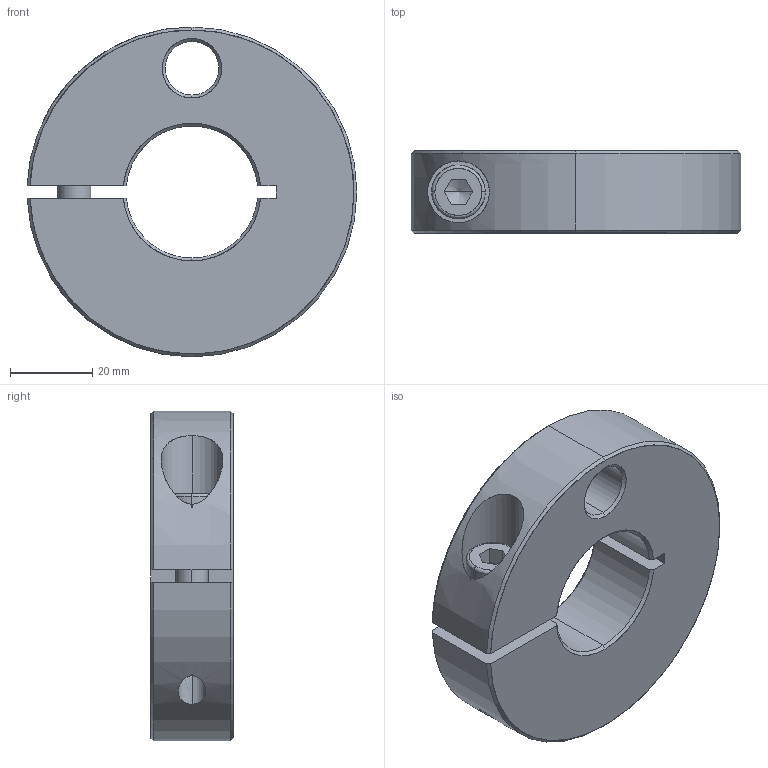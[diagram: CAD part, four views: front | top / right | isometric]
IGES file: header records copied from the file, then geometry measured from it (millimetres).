
Start section: SolidWorks IGES FILE using analytic representation for surfaces
Global section: file name: C:\WIX2\Positioning\3865\3865W032.igs; native system: SolidWorks 2003 by SolidWorks Corporation; preprocessor: Version 5.3; author: Joan; date: 030722.172937; units: millimetre
Bounding box: 79.97 x 20 x 80 mm (x, y, z)
Surface area: 19381.6 mm2 (no closed solid volume)
Topology: 0 solids, 0 shells, 65 faces, 1015 edges, 1013 vertices
Faces by surface type: revolution 45, bspline 20
